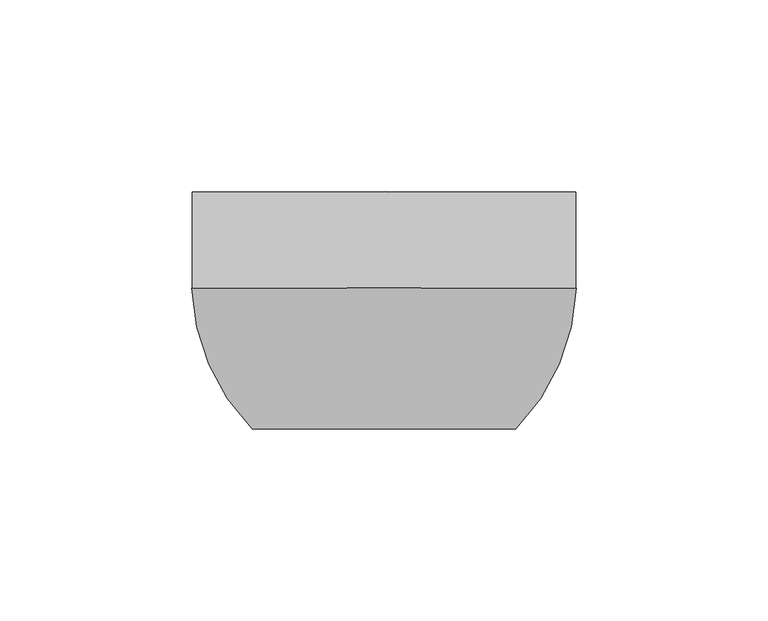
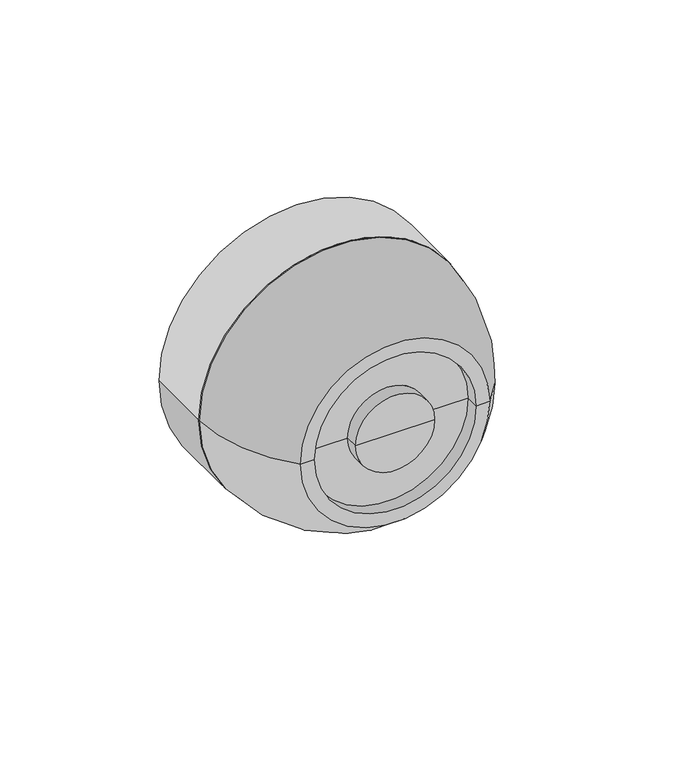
"""IFC4 building model written with IfcOpenShell, lengths in millimetres: alarm geometry, larmdon optiskt : Larmdon optiskt."""

from ifc_helpers import new_model, si_unit, point, frame, frame_2d, origin, place, context, project, spatial, polyline, circle_curve, ellipse_curve, trimmed, segment, composite_curve, outline, extrude, source, transform, mapped, element, save
from ifc_brep_helpers import plane_surface, cylinder_surface, revolved_surface, advanced_brep


def alarm_50d67b49(model_context):
    return source(origin(), model_context, "Body", "SolidModel", [
        extrude(outline(composite_curve([segment(trimmed(circle_curve(frame_2d((1950.0, 0.0)), 50.0), [point((1950.0, -50.0))], [point((1950.0, 50.0))], False, "CARTESIAN"), True, "CONTINUOUS"), segment(trimmed(circle_curve(frame_2d((1950.0, 0.0)), 50.0), [point((1950.0, 50.0))], [point((1950.0, -50.0))], False, "CARTESIAN"), True, "CONTINUOUS")], self_intersect=False)), frame((0.0, -25.0, 0.0), z_axis=(0.0, 1.0, 0.0), x_axis=(0.0, 0.0, 1.0)), (0.0, 0.0, 1.0), 25.0),
        advanced_brep(
        [(0.0, -25.0, 1950.0), (50.0, -25.0, 1950.0), (-50.0, -25.0, 1950.0), (-14.3707549, -61.8201941, 1950.0), (14.3707549, -61.8201941, 1950.0), (0.0, -61.8201941, 1950.0), (-14.3707549, -56.8201941, 1950.0), (14.3707549, -56.8201941, 1950.0), (-29.3707549, -56.8201941, 1950.0), (29.3707549, -56.8201941, 1950.0), (-29.3707549, -61.8201941, 1950.0), (29.3707549, -61.8201941, 1950.0), (-34.3707549, -61.8201941, 1950.0), (34.3707549, -61.8201941, 1950.0)],
        [
            (0, 1),
            (1, 2, circle_curve(frame((0.0, -25.0, 1950.0), z_axis=(0.0, 1.0, 0.0), x_axis=(1.0, 0.0, 0.0)), 50.0)),
            (2, 0),
            (2, 1, circle_curve(frame((0.0, -25.0, 1950.0), z_axis=(0.0, 1.0, 0.0), x_axis=(1.0, 0.0, 0.0)), 50.0)),
            (3, 4, circle_curve(frame((0.0, -61.8201941, 1950.0), z_axis=(0.0, -1.0, 0.0), x_axis=(1.0, 0.0, 0.0)), 14.3707549)),
            (4, 5),
            (5, 3),
            (4, 3, circle_curve(frame((0.0, -61.8201941, 1950.0), z_axis=(0.0, -1.0, 0.0), x_axis=(1.0, 0.0, 0.0)), 14.3707549)),
            (6, 7, circle_curve(frame((0.0, -56.8201941, 1950.0), z_axis=(0.0, -1.0, 0.0), x_axis=(1.0, 0.0, 0.0)), 14.3707549)),
            (7, 4),
            (3, 6),
            (7, 6, circle_curve(frame((0.0, -56.8201941, 1950.0), z_axis=(0.0, -1.0, 0.0), x_axis=(1.0, 0.0, 0.0)), 14.3707549)),
            (8, 9, circle_curve(frame((0.0, -56.8201941, 1950.0), z_axis=(0.0, -1.0, 0.0), x_axis=(1.0, 0.0, 0.0)), 29.3707549)),
            (9, 7),
            (6, 8),
            (9, 8, circle_curve(frame((0.0, -56.8201941, 1950.0), z_axis=(0.0, -1.0, 0.0), x_axis=(1.0, 0.0, 0.0)), 29.3707549)),
            (10, 11, circle_curve(frame((0.0, -61.8201941, 1950.0), z_axis=(0.0, -1.0, 0.0), x_axis=(1.0, 0.0, 0.0)), 29.3707549)),
            (11, 9),
            (8, 10),
            (11, 10, circle_curve(frame((0.0, -61.8201941, 1950.0), z_axis=(0.0, -1.0, 0.0), x_axis=(1.0, 0.0, 0.0)), 29.3707549)),
            (12, 13, circle_curve(frame((0.0, -61.8201941, 1950.0), z_axis=(0.0, -1.0, 0.0), x_axis=(1.0, 0.0, 0.0)), 34.3707549)),
            (13, 11),
            (10, 12),
            (13, 12, circle_curve(frame((0.0, -61.8201941, 1950.0), z_axis=(0.0, -1.0, 0.0), x_axis=(1.0, 0.0, 0.0)), 34.3707549)),
            (1, 13, circle_curve(frame((-4.2691398, -23.6913244, 1950.0), z_axis=(0.0, 0.0, -1.0), x_axis=(1.0, 0.0, 0.0)), 54.2849166)),
            (12, 2, circle_curve(frame((4.2691398, -23.6913244, 1950.0), z_axis=(0.0, 0.0, -1.0), x_axis=(-1.0, 0.0, 0.0)), 54.2849166)),
        ],
        [
            plane_surface(frame((0.0, -25.0, 1950.0), z_axis=(0.0, 1.0, 0.0), x_axis=(1.0, 0.0, 0.0))),
            plane_surface(frame((0.0, -61.8201941, 1950.0), z_axis=(0.0, -1.0, 0.0), x_axis=(1.0, 0.0, 0.0))),
            cylinder_surface(frame((0.0, 0.0, 1950.0), z_axis=(0.0, 1.0, 0.0), x_axis=(1.0, 0.0, 0.0)), 14.3707549),
            plane_surface(frame((0.0, -56.8201941, 1950.0), z_axis=(0.0, -1.0, 0.0), x_axis=(1.0, 0.0, 0.0))),
            revolved_surface(polyline([(29.3707549, -56.8201941, 1950.0), (29.3707549, -61.8201941, 1950.0)]), (0.0, 0.0, 1950.0), (0.0, 1.0, 0.0)),
            revolved_surface(trimmed(ellipse_curve(frame((-4.2691398, -23.6913244, 1950.0), z_axis=(0.0, 0.0, 1.0), x_axis=(1.0, 0.0, 0.0)), 54.2849166, 54.2849166), [point((34.3707549, -61.8201941, 1950.0))], [point((50.0, -25.0, 1950.0))], True, "CARTESIAN"), (0.0, 0.0, 1950.0), (0.0, 1.0, 0.0)),
        ],
        [
            (0, [[1, 2, 3]]),
            (0, [[-3, 4, -1]]),
            (1, [[5, 6, 7]]),
            (1, [[8, -7, -6]]),
            (2, [[9, 10, -5, 11]]),
            (2, [[12, -11, -8, -10]]),
            (3, [[13, 14, -9, 15]]),
            (3, [[16, -15, -12, -14]]),
            (4, [[17, 18, -13, 19]]),
            (4, [[20, -19, -16, -18]]),
            (1, [[21, 22, -17, 23]]),
            (1, [[24, -23, -20, -22]]),
            (5, [[-2, 25, -21, 26]]),
            (5, [[-4, -26, -24, -25]]),
        ],
    ),
    ])


if __name__ == "__main__":
    model = new_model("IFC4")
    model_context = context("Model", 3, world=origin())
    ifc_project = project(units=[si_unit("LENGTHUNIT", "METRE", prefix="MILLI")], contexts=[model_context])
    site = spatial("IfcSite", under=ifc_project)
    building = spatial("IfcBuilding", under=site)
    placement = place(None, origin())
    alarm_shape = alarm_50d67b49(model_context)
    element("IfcAlarm", 1, ObjectType="larmdon optiskt : Larmdon optiskt", at=placement, inside=building, context=model_context, shape_type="MappedRepresentation", body=[
        mapped(alarm_shape, transform((0.0, 0.0, 0.0), x_axis=(1.0, 0.0, 0.0), y_axis=(0.0, 1.0, 0.0), z_axis=(0.0, 0.0, 1.0))),
    ])
    save(model, "model.ifc")
